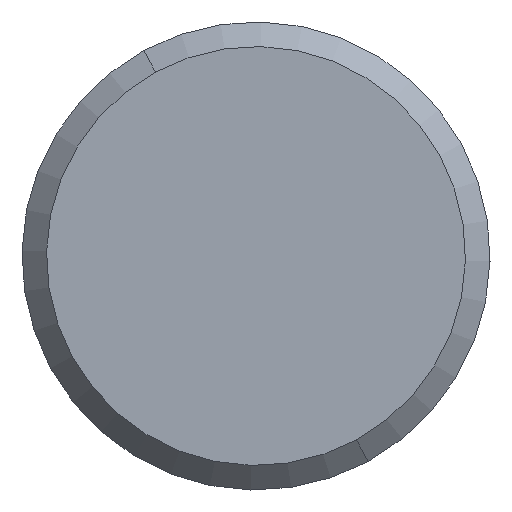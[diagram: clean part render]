
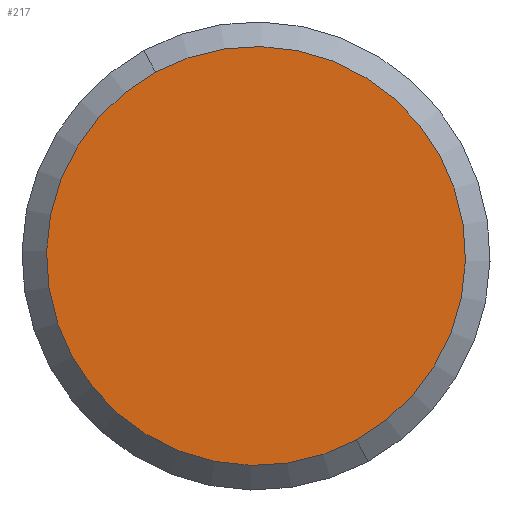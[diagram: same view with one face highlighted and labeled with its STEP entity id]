
A CAD part, left-side view. The second image highlights one B-rep face of the part: STEP entity #217.
In plain terms, the highlighted planar face has unit normal (-1, 0, 0).
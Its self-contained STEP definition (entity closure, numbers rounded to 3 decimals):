
#194=CARTESIAN_POINT('Axis2P3D Location',(-25.,0.,0.)) ;
#199=CARTESIAN_POINT('Axis2P3D Location',(-25.,0.,0.)) ;
#203=CARTESIAN_POINT('Vertex',(-25.,4.087,7.481)) ;
#205=CARTESIAN_POINT('Vertex',(-25.,-4.087,-7.481)) ;
#208=CARTESIAN_POINT('Axis2P3D Location',(-25.,0.,0.)) ;
#195=DIRECTION('Axis2P3D Direction',(-1.,0.,0.)) ;
#196=DIRECTION('Axis2P3D XDirection',(0.,1.,0.)) ;
#200=DIRECTION('Axis2P3D Direction',(-1.,0.,0.)) ;
#209=DIRECTION('Axis2P3D Direction',(-1.,0.,0.)) ;
#197=AXIS2_PLACEMENT_3D('Plane Axis2P3D',#194,#195,#196) ;
#201=AXIS2_PLACEMENT_3D('Circle Axis2P3D',#199,#200,$) ;
#210=AXIS2_PLACEMENT_3D('Circle Axis2P3D',#208,#209,$) ;
#202=CIRCLE('generated circle',#201,8.525) ;
#211=CIRCLE('generated circle',#210,8.525) ;
#198=PLANE('',#197) ;
#207=EDGE_CURVE('',#204,#206,#202,.T.) ;
#212=EDGE_CURVE('',#206,#204,#211,.T.) ;
#213=EDGE_LOOP('',(#214,#215)) ;
#214=ORIENTED_EDGE('',*,*,#207,.T.) ;
#215=ORIENTED_EDGE('',*,*,#212,.T.) ;
#204=VERTEX_POINT('',#203) ;
#206=VERTEX_POINT('',#205) ;
#217=ADVANCED_FACE('PartBody',(#216),#198,.T.) ;
#216=FACE_OUTER_BOUND('',#213,.T.) ;
